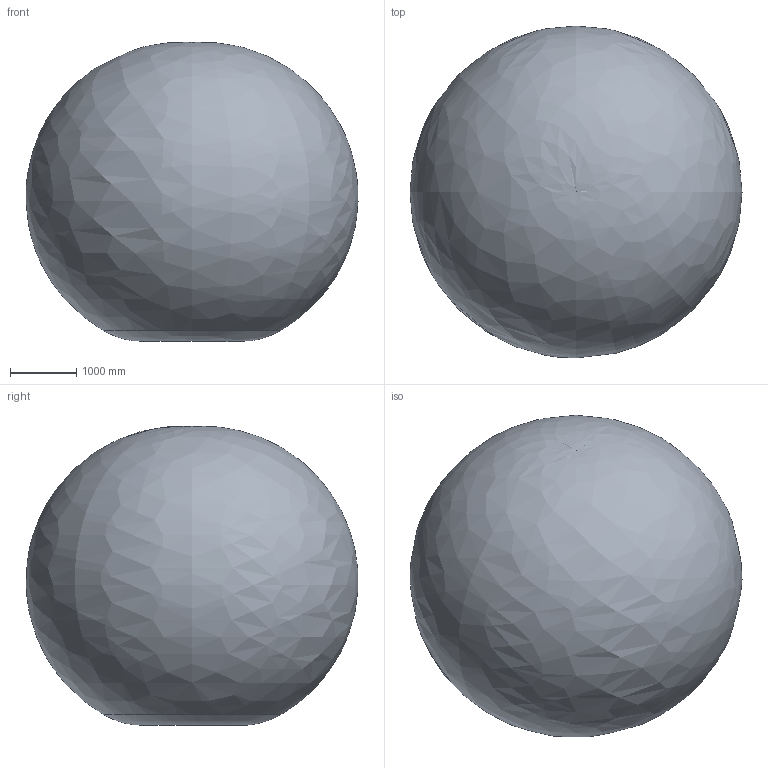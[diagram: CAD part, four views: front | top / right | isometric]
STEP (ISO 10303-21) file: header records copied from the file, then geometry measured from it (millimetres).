
FILE_DESCRIPTION(/* description */ (''),/* implementation_level */ '2;1');
FILE_NAME(/* name */ 'E:\组装完成的图纸\IRB 4600\IRB 4600-20-2.5\IRB 4600-20-2.5(带工作域).stp',/* time_stamp */ '2023-11-03T21:51:53+08:00',/* author */ ('Administrator'),/* organization */ (''),/* preprocessor_version */ 'ST-DEVELOPER v16.5',/* originating_system */ 'Autodesk Inventor 2017',/* authorisation */ '');
FILE_SCHEMA (('AUTOMOTIVE_DESIGN { 1 0 10303 214 3 1 1 }'));
Products named in the file (12): 部件3; IRB4600_20kg-250_BASE_CAD_rev04; IRB4600_20kg-250_CABLES_LINK1_rev03; IRB4600_20kg-250_CABLES_LINK2_rev03; IRB4600_20kg-250_CABLES_LINK3_rev03; IRB4600_20kg-250_LINK1_CAD_rev04; IRB4600_20kg-250_LINK2_CAD_rev04; IRB4600_20kg-250_LINK3_CAD_rev04; IRB4600_20kg-250_LINK4_CAD_rev04; IRB4600_20kg-250_LINK5_CAD_rev04; IRB4600_20kg-250_LINK6_CAD_rev04; IRB4600_20kg-250_WORKING-SPACE_rev00
Assembly tree (11 placements, depth 2):
  部件3
    IRB4600_20kg-250_BASE_CAD_rev04
    IRB4600_20kg-250_CABLES_LINK1_rev03
    IRB4600_20kg-250_CABLES_LINK2_rev03
    IRB4600_20kg-250_CABLES_LINK3_rev03
    IRB4600_20kg-250_LINK1_CAD_rev04
    IRB4600_20kg-250_LINK2_CAD_rev04
    IRB4600_20kg-250_LINK3_CAD_rev04
    IRB4600_20kg-250_LINK4_CAD_rev04
    IRB4600_20kg-250_LINK5_CAD_rev04
    IRB4600_20kg-250_LINK6_CAD_rev04
    IRB4600_20kg-250_WORKING-SPACE_rev00
Bounding box: 4999.26 x 4995.35 x 4504.28 mm (x, y, z)
Volume: 61251557229.5 mm3; surface area: 86568109.1 mm2
Topology: 12 solids, 22 shells, 4273 faces, 10938 edges, 6950 vertices
Faces by surface type: plane 1838, bspline 999, cylinder 812, cone 463, torus 137, sphere 24
Full cylindrical faces by diameter (mm): 4.2 x2, 5 x8, 5.263 x1, 6 x13, 6.25 x2, 6.8 x17, 6.9 x4, 6.959 x1, 7 x3, 7.1 x5, 7.5 x16, 8 x1, 8.5 x6, 9.5 x1, 10 x1, 10.2 x1, 10.22 x21, 10.5 x2, 10.6 x1, 11 x3, 11.9 x5, 12 x44, 13 x2, 13.3 x20, 15.551 x1, 15.665 x5, 16 x1, 16.27 x16, 16.3 x30, 17 x2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
Entity records: 249085 total; most frequent: CARTESIAN_POINT 153901, ORIENTED_EDGE 20476, DIRECTION 17862, EDGE_CURVE 10238, AXIS2_PLACEMENT_3D 7003, VERTEX_POINT 6804, EDGE_LOOP 5194, FACE_OUTER_BOUND 4273
